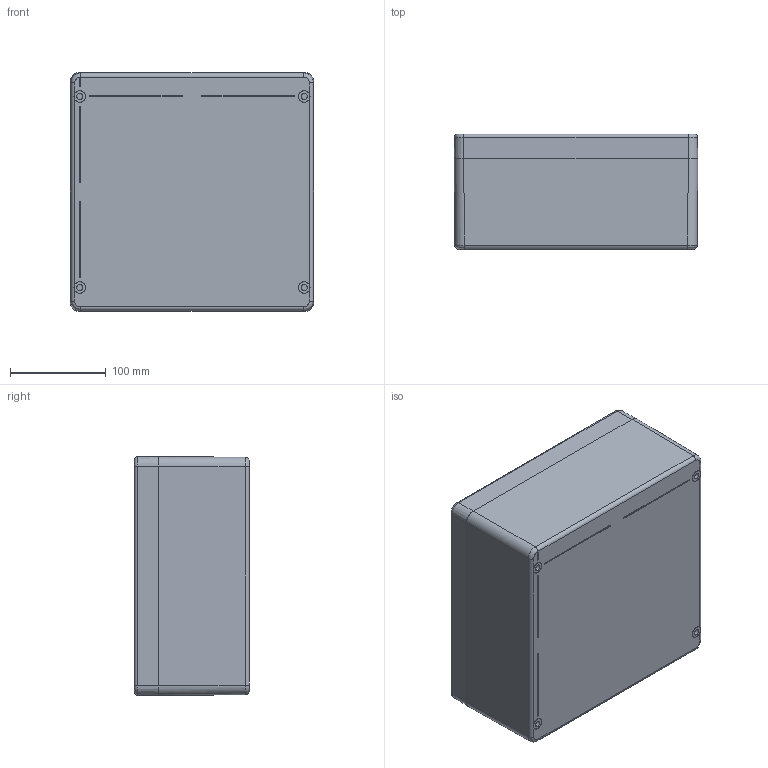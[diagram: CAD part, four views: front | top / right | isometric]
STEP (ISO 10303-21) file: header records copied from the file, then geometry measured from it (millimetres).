
FILE_DESCRIPTION((''),'2;1');
FILE_NAME('5374000000_ASM','2024-01-03T11:09:31',('silke.otte'),(''),'CREO PARAMETRIC BY PTC INC, 2022124','CREO PARAMETRIC BY PTC INC, 2022124','');
FILE_SCHEMA(('AUTOMOTIVE_DESIGN { 1 0 10303 214 1 1 1 1 }'));
Length unit declared in the file: millimetre
Products named in the file (11): 9331010000; 9502218000; 9502217000; 9341010000_ASM; 9342010000; CP-DICHTUNG_45; 9614005500_ASM; 9262006000; 9261027000; 9258857000; 5374000000_ASM
Assembly tree (25 placements, depth 3):
  5374000000_ASM
    9341010000_ASM
      9331010000
      9502218000  x6
      9502217000  x4
    9614005500_ASM
      9342010000
      CP-DICHTUNG_45
    9262006000  x4
    9261027000  x4
    9258857000  x2
Bounding box: 255 x 120.5 x 250 mm (x, y, z)
Volume: 1501999.5 mm3; surface area: 519246.5 mm2
Topology: 23 solids, 37 shells, 2250 faces, 8204 edges, 8150 vertices
Faces by surface type: plane 1614, cone 412, cylinder 170, bspline 30, torus 24
Entity records: 43697 total; most frequent: CARTESIAN_POINT 10727, DIRECTION 4850, ORIENTED_EDGE 3896, EDGE_CURVE 1954, PRESENTATION_STYLE_ASSIGNMENT 1922, STYLED_ITEM 1914, CURVE_STYLE 1904, AXIS2_PLACEMENT_3D 1613
